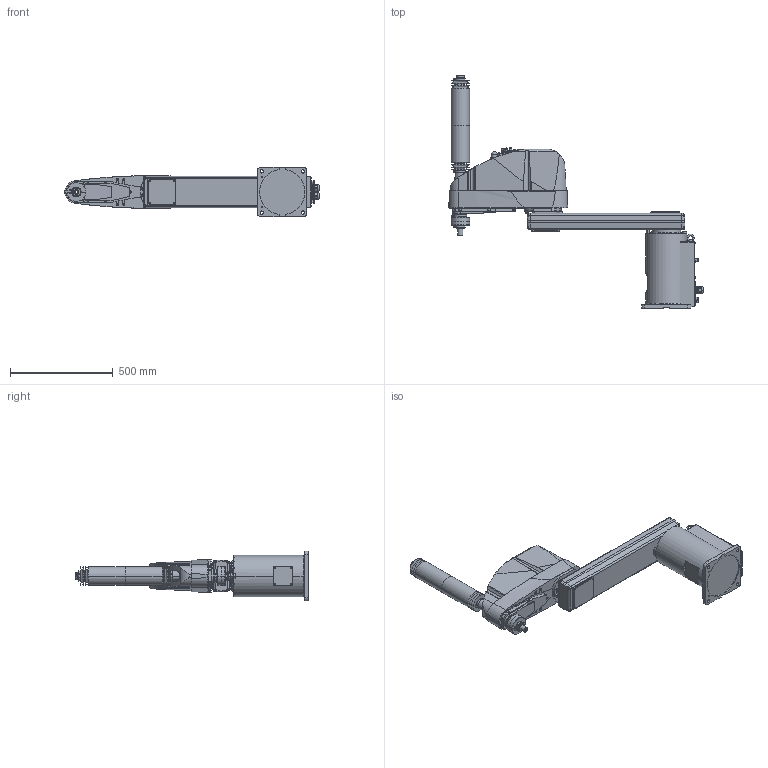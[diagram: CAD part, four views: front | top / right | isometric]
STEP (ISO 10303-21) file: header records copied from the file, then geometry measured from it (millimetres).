
FILE_DESCRIPTION( ( '' ), '1' );
FILE_NAME( '//expscmdclustefs.cadenas.external/client_exchange/iodir/jobs/output/wkb51489993_no0/STEP/G20_A04C_2_14b.stp', '2012-11-22T08:49:25', ( '' ), ( '' ), ' ', ' ', ' ' );
FILE_SCHEMA( ( 'automotive_design' ) );
Length unit declared in the file: millimetre
Products named in the file (8): 1; 2; 3; 4; 5; 6; 7; 8
Bounding box: 1234.5 x 1129.5 x 240 mm (x, y, z)
Volume: 45097073.8 mm3; surface area: 1804140.9 mm2
Topology: 8 solids, 9 shells, 2023 faces, 4917 edges, 3185 vertices
Faces by surface type: plane 1092, cylinder 655, cone 234, torus 41, sphere 1
Entity records: 118339 total; most frequent: CARTESIAN_POINT 12672, DIRECTION 10502, STYLED_ITEM 10129, PRESENTATION_STYLE_ASSIGNMENT 10129, COLOUR_RGB 10129, ORIENTED_EDGE 9826, EDGE_CURVE 4913, CURVE_STYLE 4913
